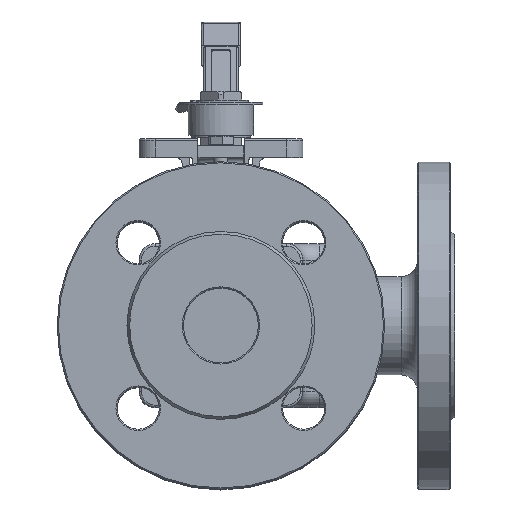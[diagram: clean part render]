
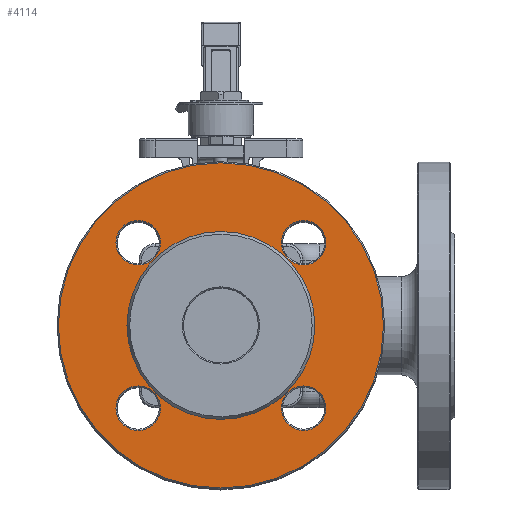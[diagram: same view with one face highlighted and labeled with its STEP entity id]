
A CAD part, top view. The second image highlights one B-rep face of the part: STEP entity #4114.
In plain terms, the highlighted planar face has unit normal (0, 0, 1).
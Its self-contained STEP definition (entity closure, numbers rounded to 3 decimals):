
#4114=ADVANCED_FACE('',(#12155,#12157,#12159,#12161,#12163,#12165),#12167,.T.);
#12155=FACE_BOUND('',#12156,.T.);
#12156=EDGE_LOOP('',(#17856));
#12157=FACE_BOUND('',#12158,.T.);
#12158=EDGE_LOOP('',(#17857));
#12159=FACE_BOUND('',#12160,.T.);
#12160=EDGE_LOOP('',(#17858));
#12161=FACE_BOUND('',#12162,.T.);
#12162=EDGE_LOOP('',(#17859));
#12163=FACE_BOUND('',#12164,.T.);
#12164=EDGE_LOOP('',(#17860));
#12165=FACE_BOUND('',#12166,.T.);
#12166=EDGE_LOOP('',(#17861));
#12167=PLANE('',#12168);
#12168=AXIS2_PLACEMENT_3D('',#12169,#12170,#12171);
#12169=CARTESIAN_POINT('',(0.,0.,98.));
#12170=DIRECTION('',(0.,0.,1.));
#12171=DIRECTION('',(1.,0.,0.));
#17856=ORIENTED_EDGE('',*,*,#20665,.F.);
#17857=ORIENTED_EDGE('',*,*,#20598,.F.);
#17858=ORIENTED_EDGE('',*,*,#20596,.F.);
#17859=ORIENTED_EDGE('',*,*,#20666,.F.);
#17860=ORIENTED_EDGE('',*,*,#20597,.F.);
#17861=ORIENTED_EDGE('',*,*,#20595,.F.);
#20595=EDGE_CURVE('',#23830,#23830,#23831,.T.);
#20596=EDGE_CURVE('',#23832,#23832,#23833,.T.);
#20597=EDGE_CURVE('',#23834,#23834,#23835,.T.);
#20598=EDGE_CURVE('',#23836,#23836,#23837,.T.);
#20665=EDGE_CURVE('',#23944,#23944,#23945,.T.);
#20666=EDGE_CURVE('',#23946,#23946,#23947,.T.);
#23830=VERTEX_POINT('',#40034);
#23831=CIRCLE('',#40035,9.5);
#23832=VERTEX_POINT('',#40039);
#23833=CIRCLE('',#40040,9.5);
#23834=VERTEX_POINT('',#40044);
#23835=CIRCLE('',#40045,9.5);
#23836=VERTEX_POINT('',#40049);
#23837=CIRCLE('',#40050,9.5);
#23944=VERTEX_POINT('',#40569);
#23945=CIRCLE('',#40570,69.5);
#23946=VERTEX_POINT('',#40574);
#23947=CIRCLE('',#40575,40.155);
#40034=CARTESIAN_POINT('',(-25.855,-35.355,98.));
#40035=AXIS2_PLACEMENT_3D('',#40036,#40037,#40038);
#40036=CARTESIAN_POINT('',(-35.355,-35.355,98.));
#40037=DIRECTION('',(0.,0.,1.));
#40038=DIRECTION('',(1.,0.,0.));
#40039=CARTESIAN_POINT('',(-25.855,35.355,98.));
#40040=AXIS2_PLACEMENT_3D('',#40041,#40042,#40043);
#40041=CARTESIAN_POINT('',(-35.355,35.355,98.));
#40042=DIRECTION('',(0.,0.,1.));
#40043=DIRECTION('',(1.,0.,0.));
#40044=CARTESIAN_POINT('',(44.855,35.355,98.));
#40045=AXIS2_PLACEMENT_3D('',#40046,#40047,#40048);
#40046=CARTESIAN_POINT('',(35.355,35.355,98.));
#40047=DIRECTION('',(0.,0.,1.));
#40048=DIRECTION('',(1.,0.,0.));
#40049=CARTESIAN_POINT('',(44.855,-35.355,98.));
#40050=AXIS2_PLACEMENT_3D('',#40051,#40052,#40053);
#40051=CARTESIAN_POINT('',(35.355,-35.355,98.));
#40052=DIRECTION('',(0.,0.,1.));
#40053=DIRECTION('',(1.,0.,0.));
#40569=CARTESIAN_POINT('',(69.5,0.,98.));
#40570=AXIS2_PLACEMENT_3D('',#40571,#40572,#40573);
#40571=CARTESIAN_POINT('',(0.,0.,98.));
#40572=DIRECTION('',(0.,0.,-1.));
#40573=DIRECTION('',(1.,0.,0.));
#40574=CARTESIAN_POINT('',(40.155,0.,98.));
#40575=AXIS2_PLACEMENT_3D('',#40576,#40577,#40578);
#40576=CARTESIAN_POINT('',(0.,0.,98.));
#40577=DIRECTION('',(0.,0.,1.));
#40578=DIRECTION('',(1.,0.,0.));
